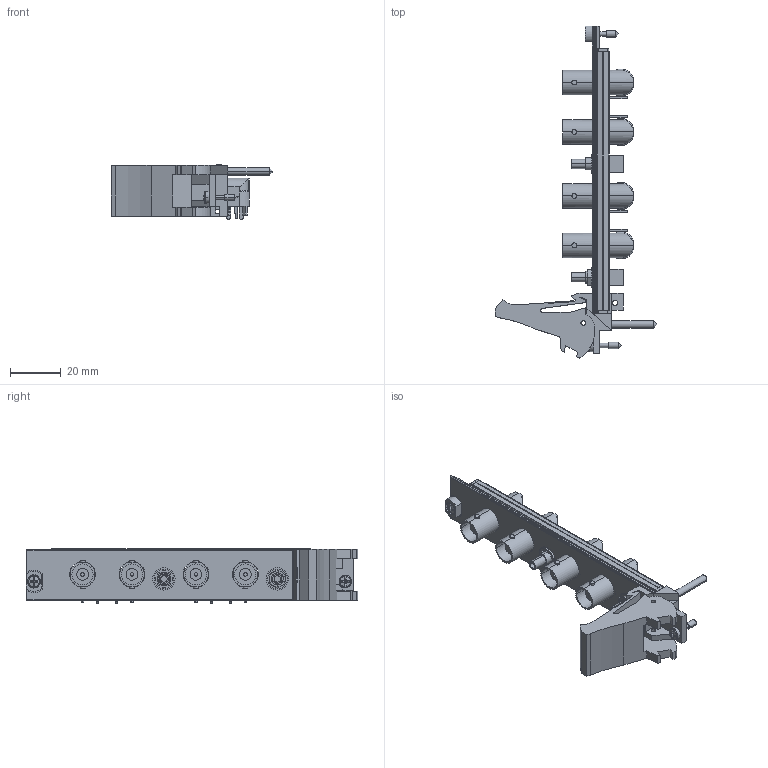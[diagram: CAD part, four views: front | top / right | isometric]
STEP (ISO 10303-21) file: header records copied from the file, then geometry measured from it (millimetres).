
FILE_DESCRIPTION((''),'2;1');
FILE_NAME('CU_PXI-5900','2009-12-31T',('jjorden'),(''),'PRO/ENGINEER BY PARAMETRIC TECHNOLOGY CORPORATION, 2006080','PRO/ENGINEER BY PARAMETRIC TECHNOLOGY CORPORATION, 2006080','');
FILE_SCHEMA(('CONFIG_CONTROL_DESIGN'));
Length unit declared in the file: inch
Products named in the file (1): CU_PXI-5900
Bounding box: 63.53 x 130.5 x 21.46 mm (x, y, z)
Volume: 23426 mm3; surface area: 23187.2 mm2
Topology: 6 solids, 6 shells, 812 faces, 2146 edges, 1394 vertices
Faces by surface type: plane 515, cylinder 267, cone 22, torus 4, sphere 4
Entity records: 26175 total; most frequent: CARTESIAN_POINT 5515, DIRECTION 4335, ORIENTED_EDGE 4284, EDGE_CURVE 2142, AXIS2_PLACEMENT_3D 1462, VECTOR 1411, LINE 1411, VERTEX_POINT 1394
